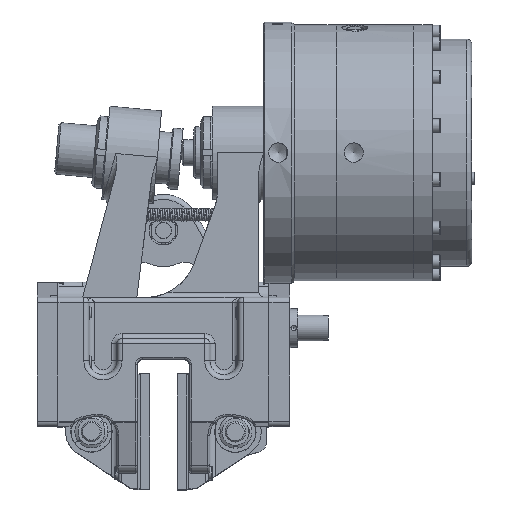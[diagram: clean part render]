
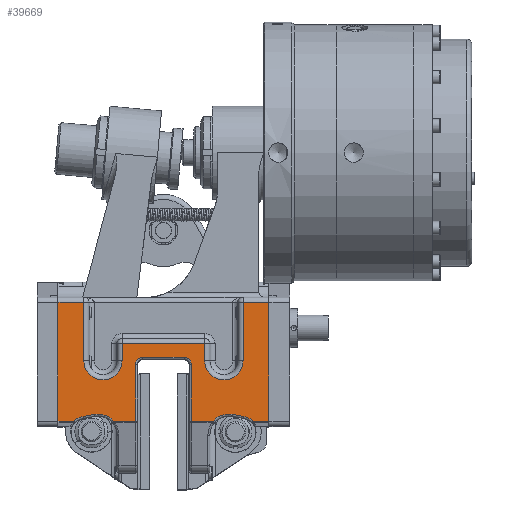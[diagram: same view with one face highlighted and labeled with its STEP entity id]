
A CAD part, top view. The second image highlights one B-rep face of the part: STEP entity #39669.
In plain terms, the highlighted planar face has unit normal (0, 0, 1).
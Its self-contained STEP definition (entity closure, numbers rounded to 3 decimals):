
#2914=CIRCLE('',#42525,20.);
#2918=CIRCLE('',#42531,18.);
#2920=CIRCLE('',#42537,7.);
#2921=CIRCLE('',#42538,7.);
#2922=CIRCLE('',#42539,20.);
#2923=CIRCLE('',#42540,18.);
#2924=CIRCLE('',#42541,18.5);
#2925=CIRCLE('',#42542,18.5);
#5161=FACE_OUTER_BOUND('',#7424,.T.);
#7424=EDGE_LOOP('',(#27595,#27596,#27597,#27598,#27599,#27600,#27601,#27602,
#27603,#27604,#27605,#27606,#27607,#27608,#27609,#27610,#27611,#27612,#27613,
#27614,#27615,#27616,#27617,#27618,#27619,#27620));
#9903=LINE('',#62269,#12535);
#10045=LINE('',#62735,#12677);
#10189=LINE('',#63588,#12821);
#10190=LINE('',#63661,#12822);
#10192=LINE('',#63665,#12824);
#10193=LINE('',#63667,#12825);
#10194=LINE('',#63671,#12826);
#10195=LINE('',#63675,#12827);
#10196=LINE('',#63677,#12828);
#10197=LINE('',#63681,#12829);
#10198=LINE('',#63684,#12830);
#10199=LINE('',#63686,#12831);
#10200=LINE('',#63688,#12832);
#10201=LINE('',#63692,#12833);
#10202=LINE('',#63694,#12834);
#10203=LINE('',#63696,#12835);
#10204=LINE('',#63700,#12836);
#10205=LINE('',#63701,#12837);
#12535=VECTOR('',#48183,10.);
#12677=VECTOR('',#48641,10.);
#12821=VECTOR('',#49259,10.);
#12822=VECTOR('',#49276,10.);
#12824=VECTOR('',#49280,10.);
#12825=VECTOR('',#49281,10.);
#12826=VECTOR('',#49284,10.);
#12827=VECTOR('',#49287,10.);
#12828=VECTOR('',#49288,10.);
#12829=VECTOR('',#49291,10.);
#12830=VECTOR('',#49294,10.);
#12831=VECTOR('',#49295,5.);
#12832=VECTOR('',#49296,10.);
#12833=VECTOR('',#49299,10.);
#12834=VECTOR('',#49300,10.);
#12835=VECTOR('',#49301,10.);
#12836=VECTOR('',#49304,10.);
#12837=VECTOR('',#49305,5.);
#15443=VERTEX_POINT('',#62259);
#15446=VERTEX_POINT('',#62267);
#15610=VERTEX_POINT('',#62728);
#15612=VERTEX_POINT('',#62734);
#15828=VERTEX_POINT('',#63566);
#15830=VERTEX_POINT('',#63578);
#15832=VERTEX_POINT('',#63584);
#15834=VERTEX_POINT('',#63590);
#15840=VERTEX_POINT('',#63664);
#15841=VERTEX_POINT('',#63666);
#15842=VERTEX_POINT('',#63668);
#15843=VERTEX_POINT('',#63670);
#15844=VERTEX_POINT('',#63672);
#15845=VERTEX_POINT('',#63674);
#15846=VERTEX_POINT('',#63676);
#15847=VERTEX_POINT('',#63678);
#15848=VERTEX_POINT('',#63680);
#15849=VERTEX_POINT('',#63682);
#15850=VERTEX_POINT('',#63685);
#15851=VERTEX_POINT('',#63687);
#15852=VERTEX_POINT('',#63689);
#15853=VERTEX_POINT('',#63691);
#15854=VERTEX_POINT('',#63693);
#15855=VERTEX_POINT('',#63695);
#15856=VERTEX_POINT('',#63697);
#15857=VERTEX_POINT('',#63699);
#19746=EDGE_CURVE('',#15443,#15446,#9903,.T.);
#19979=EDGE_CURVE('',#15612,#15610,#10045,.T.);
#20294=EDGE_CURVE('',#15828,#15830,#2914,.T.);
#20297=EDGE_CURVE('',#15830,#15832,#10189,.T.);
#20300=EDGE_CURVE('',#15832,#15834,#2918,.T.);
#20307=EDGE_CURVE('',#15834,#15610,#10190,.T.);
#20309=EDGE_CURVE('',#15840,#15828,#10192,.T.);
#20310=EDGE_CURVE('',#15841,#15840,#10193,.T.);
#20311=EDGE_CURVE('',#15842,#15841,#2920,.T.);
#20312=EDGE_CURVE('',#15843,#15842,#10194,.T.);
#20313=EDGE_CURVE('',#15844,#15843,#2921,.T.);
#20314=EDGE_CURVE('',#15845,#15844,#10195,.T.);
#20315=EDGE_CURVE('',#15846,#15845,#10196,.T.);
#20316=EDGE_CURVE('',#15847,#15846,#2922,.T.);
#20317=EDGE_CURVE('',#15848,#15847,#10197,.T.);
#20318=EDGE_CURVE('',#15849,#15848,#2923,.T.);
#20319=EDGE_CURVE('',#15443,#15849,#10198,.T.);
#20320=EDGE_CURVE('',#15850,#15446,#10199,.T.);
#20321=EDGE_CURVE('',#15851,#15850,#10200,.T.);
#20322=EDGE_CURVE('',#15852,#15851,#2924,.T.);
#20323=EDGE_CURVE('',#15853,#15852,#10201,.T.);
#20324=EDGE_CURVE('',#15854,#15853,#10202,.T.);
#20325=EDGE_CURVE('',#15855,#15854,#10203,.T.);
#20326=EDGE_CURVE('',#15856,#15855,#2925,.T.);
#20327=EDGE_CURVE('',#15857,#15856,#10204,.T.);
#20328=EDGE_CURVE('',#15612,#15857,#10205,.T.);
#27595=ORIENTED_EDGE('',*,*,#20300,.F.);
#27596=ORIENTED_EDGE('',*,*,#20297,.F.);
#27597=ORIENTED_EDGE('',*,*,#20294,.F.);
#27598=ORIENTED_EDGE('',*,*,#20309,.F.);
#27599=ORIENTED_EDGE('',*,*,#20310,.F.);
#27600=ORIENTED_EDGE('',*,*,#20311,.F.);
#27601=ORIENTED_EDGE('',*,*,#20312,.F.);
#27602=ORIENTED_EDGE('',*,*,#20313,.F.);
#27603=ORIENTED_EDGE('',*,*,#20314,.F.);
#27604=ORIENTED_EDGE('',*,*,#20315,.F.);
#27605=ORIENTED_EDGE('',*,*,#20316,.F.);
#27606=ORIENTED_EDGE('',*,*,#20317,.F.);
#27607=ORIENTED_EDGE('',*,*,#20318,.F.);
#27608=ORIENTED_EDGE('',*,*,#20319,.F.);
#27609=ORIENTED_EDGE('',*,*,#19746,.T.);
#27610=ORIENTED_EDGE('',*,*,#20320,.F.);
#27611=ORIENTED_EDGE('',*,*,#20321,.F.);
#27612=ORIENTED_EDGE('',*,*,#20322,.F.);
#27613=ORIENTED_EDGE('',*,*,#20323,.F.);
#27614=ORIENTED_EDGE('',*,*,#20324,.F.);
#27615=ORIENTED_EDGE('',*,*,#20325,.F.);
#27616=ORIENTED_EDGE('',*,*,#20326,.F.);
#27617=ORIENTED_EDGE('',*,*,#20327,.F.);
#27618=ORIENTED_EDGE('',*,*,#20328,.F.);
#27619=ORIENTED_EDGE('',*,*,#19979,.T.);
#27620=ORIENTED_EDGE('',*,*,#20307,.F.);
#36474=PLANE('',#42536);
#39669=ADVANCED_FACE('',(#5161),#36474,.T.);
#42525=AXIS2_PLACEMENT_3D('',#63582,#49252,#49253);
#42531=AXIS2_PLACEMENT_3D('',#63594,#49266,#49267);
#42536=AXIS2_PLACEMENT_3D('',#63663,#49278,#49279);
#42537=AXIS2_PLACEMENT_3D('',#63669,#49282,#49283);
#42538=AXIS2_PLACEMENT_3D('',#63673,#49285,#49286);
#42539=AXIS2_PLACEMENT_3D('',#63679,#49289,#49290);
#42540=AXIS2_PLACEMENT_3D('',#63683,#49292,#49293);
#42541=AXIS2_PLACEMENT_3D('',#63690,#49297,#49298);
#42542=AXIS2_PLACEMENT_3D('',#63698,#49302,#49303);
#48183=DIRECTION('',(0.,1.,0.));
#48641=DIRECTION('',(0.,-1.,0.));
#49252=DIRECTION('center_axis',(0.,0.,
1.));
#49253=DIRECTION('ref_axis',(0.29,0.957,0.));
#49259=DIRECTION('',(-0.985,-0.174,0.));
#49266=DIRECTION('center_axis',(0.,0.,
1.));
#49267=DIRECTION('ref_axis',(-0.388,0.922,0.));
#49276=DIRECTION('',(-1.,0.,0.));
#49278=DIRECTION('center_axis',(0.,0.,
1.));
#49279=DIRECTION('ref_axis',(1.,0.,0.));
#49280=DIRECTION('',(-1.,0.,0.));
#49281=DIRECTION('',(0.,-1.,0.));
#49282=DIRECTION('center_axis',(0.,0.,
1.));
#49283=DIRECTION('ref_axis',(-0.707,0.707,0.));
#49284=DIRECTION('',(-1.,0.,0.));
#49285=DIRECTION('center_axis',(0.,0.,
1.));
#49286=DIRECTION('ref_axis',(0.707,0.707,0.));
#49287=DIRECTION('',(0.,1.,0.));
#49288=DIRECTION('',(-1.,0.,0.));
#49289=DIRECTION('center_axis',(0.,0.,
1.));
#49290=DIRECTION('ref_axis',(-0.29,0.957,0.));
#49291=DIRECTION('',(-0.985,0.174,0.));
#49292=DIRECTION('center_axis',(0.,0.,
1.));
#49293=DIRECTION('ref_axis',(0.388,0.922,0.));
#49294=DIRECTION('',(-1.,0.,0.));
#49295=DIRECTION('',(1.,0.,0.));
#49296=DIRECTION('',(0.,1.,0.));
#49297=DIRECTION('center_axis',(0.,0.,
1.));
#49298=DIRECTION('ref_axis',(0.,-1.,0.));
#49299=DIRECTION('',(0.,-1.,0.));
#49300=DIRECTION('',(1.,0.,0.));
#49301=DIRECTION('',(0.,1.,0.));
#49302=DIRECTION('center_axis',(0.,0.,
1.));
#49303=DIRECTION('ref_axis',(0.,-1.,0.));
#49304=DIRECTION('',(0.,-1.,0.));
#49305=DIRECTION('',(1.,0.,0.));
#62259=CARTESIAN_POINT('',(102.,50.,285.));
#62267=CARTESIAN_POINT('',(102.,165.,285.));
#62269=CARTESIAN_POINT('',(102.,170.,285.));
#62728=CARTESIAN_POINT('',(-102.,50.,285.));
#62734=CARTESIAN_POINT('',(-102.,165.,285.));
#62735=CARTESIAN_POINT('',(-102.,45.,285.));
#63566=CARTESIAN_POINT('',(-47.801,50.,285.));
#63578=CARTESIAN_POINT('',(-66.478,56.695,285.));
#63582=CARTESIAN_POINT('Origin',(-63.,37.,285.));
#63584=CARTESIAN_POINT('',(-77.63,54.726,285.));
#63588=CARTESIAN_POINT('',(-36.958,61.909,285.));
#63590=CARTESIAN_POINT('',(-86.95,50.,285.));
#63594=CARTESIAN_POINT('Origin',(-74.5,37.,285.));
#63661=CARTESIAN_POINT('',(-102.,50.,285.));
#63663=CARTESIAN_POINT('Origin',(0.,90.129,
285.));
#63664=CARTESIAN_POINT('',(-27.,50.,285.));
#63665=CARTESIAN_POINT('',(-102.,50.,285.));
#63666=CARTESIAN_POINT('',(-27.,105.,285.));
#63667=CARTESIAN_POINT('',(-27.,45.065,285.));
#63668=CARTESIAN_POINT('',(-20.,112.,285.));
#63669=CARTESIAN_POINT('Origin',(-20.,105.,285.));
#63670=CARTESIAN_POINT('',(20.,112.,285.));
#63671=CARTESIAN_POINT('',(-10.,112.,285.));
#63672=CARTESIAN_POINT('',(27.,105.,285.));
#63673=CARTESIAN_POINT('Origin',(20.,105.,285.));
#63674=CARTESIAN_POINT('',(27.,50.,285.));
#63675=CARTESIAN_POINT('',(27.,97.565,285.));
#63676=CARTESIAN_POINT('',(47.801,50.,285.));
#63677=CARTESIAN_POINT('',(-102.,50.,285.));
#63678=CARTESIAN_POINT('',(66.478,56.695,285.));
#63679=CARTESIAN_POINT('Origin',(63.,37.,285.));
#63680=CARTESIAN_POINT('',(77.63,54.726,285.));
#63681=CARTESIAN_POINT('',(31.381,62.893,285.));
#63682=CARTESIAN_POINT('',(86.95,50.,285.));
#63683=CARTESIAN_POINT('Origin',(74.5,37.,285.));
#63684=CARTESIAN_POINT('',(-102.,50.,285.));
#63685=CARTESIAN_POINT('',(77.,165.,285.));
#63686=CARTESIAN_POINT('',(0.,165.,285.));
#63687=CARTESIAN_POINT('',(77.,108.5,285.));
#63688=CARTESIAN_POINT('',(77.,127.565,285.));
#63689=CARTESIAN_POINT('',(40.,108.5,285.));
#63690=CARTESIAN_POINT('Origin',(58.5,108.5,285.));
#63691=CARTESIAN_POINT('',(40.,125.,285.));
#63692=CARTESIAN_POINT('',(40.,99.315,285.));
#63693=CARTESIAN_POINT('',(-40.,125.,285.));
#63694=CARTESIAN_POINT('',(20.,125.,285.));
#63695=CARTESIAN_POINT('',(-40.,108.5,285.));
#63696=CARTESIAN_POINT('',(-40.,107.565,285.));
#63697=CARTESIAN_POINT('',(-77.,108.5,285.));
#63698=CARTESIAN_POINT('Origin',(-58.5,108.5,285.));
#63699=CARTESIAN_POINT('',(-77.,165.,285.));
#63700=CARTESIAN_POINT('',(-77.,99.315,285.));
#63701=CARTESIAN_POINT('',(102.,165.,285.));
